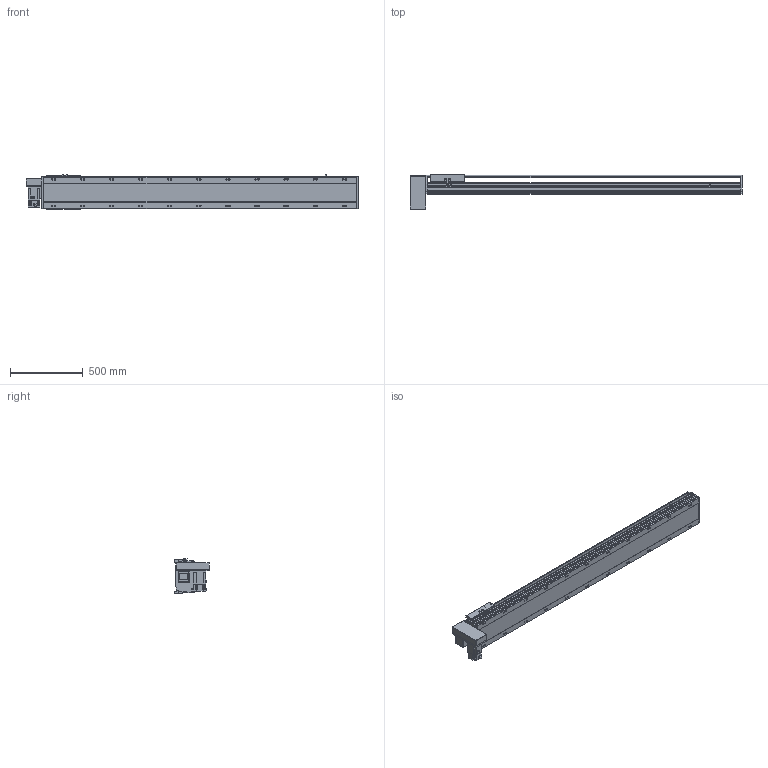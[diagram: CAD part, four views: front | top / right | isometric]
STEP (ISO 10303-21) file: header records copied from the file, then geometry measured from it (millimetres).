
FILE_DESCRIPTION(/* description */ ('STEP AP214'),/* implementation_level */ '2;1');
FILE_NAME(/* name */ 'PBS220-P40-S1800-RD-T75-C1-N(0)',/* time_stamp */ '2022-06-13T02:44:33+02:00',/* author */ ('License CC BY-ND 4.0'),/* organization */ ('CADENAS'),/* preprocessor_version */ 'ST-DEVELOPER v18.102',/* originating_system */ 'PARTsolutions',/* authorisation */ ' ');
FILE_SCHEMA (('AUTOMOTIVE_DESIGN {1 0 10303 214 3 1 1}'));
Length unit declared in the file: millimetre
Products named in the file (7): PBS220-P40-S1800-RD-T75-C1-N(0); PBS220_sensor; PBS220_plant; PBS220_sliser; T75-p1; PBS220T-RD_motors; PBS220-S1800()_body
Assembly tree (8 placements, depth 2):
  PBS220-P40-S1800-RD-T75-C1-N(0)
    PBS220_sensor  x3
    PBS220_plant
    PBS220_sliser
    T75-p1
    PBS220T-RD_motors
    PBS220-S1800()_body
Bounding box: 2284 x 239 x 238.5 mm (x, y, z)
Volume: 32235829.6 mm3; surface area: 3015723.8 mm2
Topology: 8 solids, 8 shells, 950 faces, 2480 edges, 1612 vertices
Faces by surface type: plane 610, cylinder 294, cone 46
Full cylindrical faces by diameter (mm): 2.013 x4, 4.5 x14, 4.917 x4, 6 x7, 6.647 x8, 8 x10, 8.376 x22, 8.5 x22, 10 x6, 14 x22, 38 x2, 40 x1, 70 x1
Entity records: 26565 total; most frequent: CARTESIAN_POINT 4690, DIRECTION 4617, ORIENTED_EDGE 4214, EDGE_CURVE 2107, AXIS2_PLACEMENT_3D 1633, VERTEX_POINT 1464, LINE 1351, VECTOR 1351
